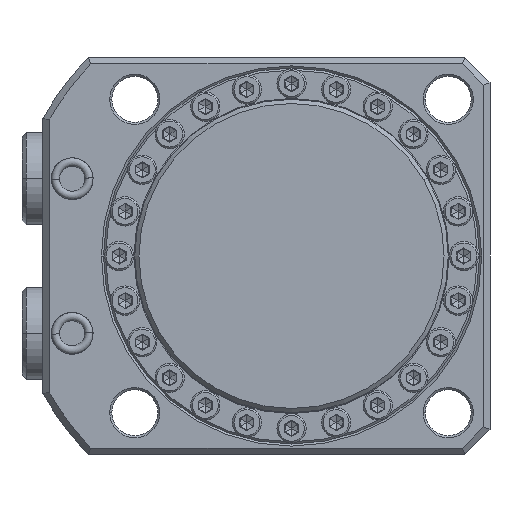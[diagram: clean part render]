
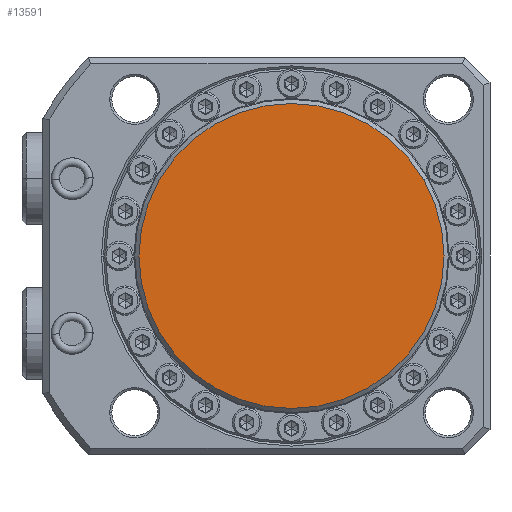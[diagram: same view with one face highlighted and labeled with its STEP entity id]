
A CAD part, front view. The second image highlights one B-rep face of the part: STEP entity #13591.
In plain terms, the highlighted planar face has unit normal (0, -1, 0) as drawn and (0, 0, 1) by its records, which use the part's own axes.
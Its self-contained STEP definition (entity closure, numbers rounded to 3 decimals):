
#11498=CARTESIAN_POINT('',(0.,0.,0.));
#11499=DIRECTION('',(0.,0.,1.));
#11500=DIRECTION('',(-1.,0.,0.));
#11501=AXIS2_PLACEMENT_3D('',#11498,#11499,#11500);
#11503=CARTESIAN_POINT('',(0.,0.,0.));
#11504=DIRECTION('',(0.,0.,1.));
#11505=DIRECTION('',(1.,0.,0.));
#11506=AXIS2_PLACEMENT_3D('',#11503,#11504,#11505);
#13164=CARTESIAN_POINT('',(-36.5,0.,0.));
#13165=CARTESIAN_POINT('',(36.5,0.,0.));
#13166=VERTEX_POINT('',#13164);
#13167=VERTEX_POINT('',#13165);
#13580=CARTESIAN_POINT('',(0.,0.,0.));
#13581=DIRECTION('',(0.,0.,1.));
#13582=DIRECTION('',(-1.,0.,0.));
#13583=AXIS2_PLACEMENT_3D('',#13580,#13581,#13582);
#13584=PLANE('',#13583);
#13586=ORIENTED_EDGE('',*,*,#13585,.F.);
#13588=ORIENTED_EDGE('',*,*,#13587,.F.);
#13589=EDGE_LOOP('',(#13586,#13588));
#13590=FACE_OUTER_BOUND('',#13589,.F.);
#13591=ADVANCED_FACE('',(#13590),#13584,.T.);
#11502=CIRCLE('',#11501,36.5);
#11507=CIRCLE('',#11506,36.5);
#13585=EDGE_CURVE('',#13166,#13167,#11502,.T.);
#13587=EDGE_CURVE('',#13167,#13166,#11507,.T.);
